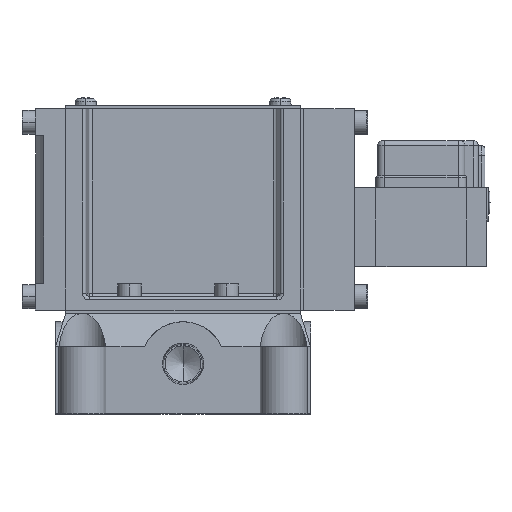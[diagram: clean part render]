
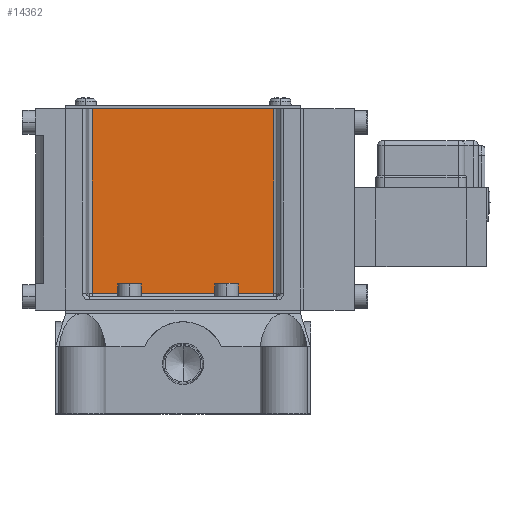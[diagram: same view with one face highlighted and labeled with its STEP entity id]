
A CAD part, top view. The second image highlights one B-rep face of the part: STEP entity #14362.
In plain terms, the highlighted planar face has unit normal (0, 0, 1).
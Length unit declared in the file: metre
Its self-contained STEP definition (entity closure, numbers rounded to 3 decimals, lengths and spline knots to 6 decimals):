
#428 = VERTEX_POINT ( 'NONE', #9134 ) ;
#2473 = VECTOR ( 'NONE', #14671, 1. ) ;
#3156 = ORIENTED_EDGE ( 'NONE', *, *, #10804, .T. ) ;
#3646 = VECTOR ( 'NONE', #13732, 1. ) ;
#3701 = ORIENTED_EDGE ( 'NONE', *, *, #12147, .F. ) ;
#5084 = CARTESIAN_POINT ( 'NONE',  ( 0.0271, 0.091, 0.017 ) ) ;
#6143 = VERTEX_POINT ( 'NONE', #6597 ) ;
#6567 = VERTEX_POINT ( 'NONE', #10894 ) ;
#6597 = CARTESIAN_POINT ( 'NONE',  ( -0.0271, 0.036, 0.017 ) ) ;
#7584 = VECTOR ( 'NONE', #15886, 1. ) ;
#7656 = AXIS2_PLACEMENT_3D ( 'NONE', #16037, #15548, #15515 ) ;
#7815 = FACE_OUTER_BOUND ( 'NONE', #13697, .T. ) ;
#8234 = LINE ( 'NONE', #17521, #12207 ) ;
#9134 = CARTESIAN_POINT ( 'NONE',  ( -0.0271, 0.091, 0.017 ) ) ;
#10664 = EDGE_CURVE ( 'NONE', #6143, #6567, #14422, .T. ) ;
#10804 = EDGE_CURVE ( 'NONE', #6567, #15402, #11994, .T. ) ;
#10894 = CARTESIAN_POINT ( 'NONE',  ( 0.0271, 0.036, 0.017 ) ) ;
#11032 = EDGE_CURVE ( 'NONE', #428, #6143, #8234, .T. ) ;
#11994 = LINE ( 'NONE', #15849, #7584 ) ;
#12147 = EDGE_CURVE ( 'NONE', #428, #15402, #14858, .T. ) ;
#12207 = VECTOR ( 'NONE', #17506, 1. ) ;
#13617 = CARTESIAN_POINT ( 'NONE',  ( 0., 0.091, 0.017 ) ) ;
#13697 = EDGE_LOOP ( 'NONE', ( #3701, #13932, #16678, #3156 ) ) ;
#13732 = DIRECTION ( 'NONE',  ( 1., 0., 0. ) ) ;
#13932 = ORIENTED_EDGE ( 'NONE', *, *, #11032, .T. ) ;
#14362 = ADVANCED_FACE ( 'NONE', ( #7815 ), #15576, .T. ) ;
#14422 = LINE ( 'NONE', #14626, #2473 ) ;
#14626 = CARTESIAN_POINT ( 'NONE',  ( 0., 0.036, 0.017 ) ) ;
#14671 = DIRECTION ( 'NONE',  ( 1., 0., 0. ) ) ;
#14858 = LINE ( 'NONE', #13617, #3646 ) ;
#15402 = VERTEX_POINT ( 'NONE', #5084 ) ;
#15515 = DIRECTION ( 'NONE',  ( 1., 0., 0. ) ) ;
#15548 = DIRECTION ( 'NONE',  ( 0., 0., 1. ) ) ;
#15576 = PLANE ( 'NONE',  #7656 ) ;
#15849 = CARTESIAN_POINT ( 'NONE',  ( 0.0271, 0.0635, 0.017 ) ) ;
#15886 = DIRECTION ( 'NONE',  ( 0., 1., 0. ) ) ;
#16037 = CARTESIAN_POINT ( 'NONE',  ( -0.0271, 0.036, 0.017 ) ) ;
#16678 = ORIENTED_EDGE ( 'NONE', *, *, #10664, .T. ) ;
#17506 = DIRECTION ( 'NONE',  ( 0., -1., 0. ) ) ;
#17521 = CARTESIAN_POINT ( 'NONE',  ( -0.0271, 0.0635, 0.017 ) ) ;
